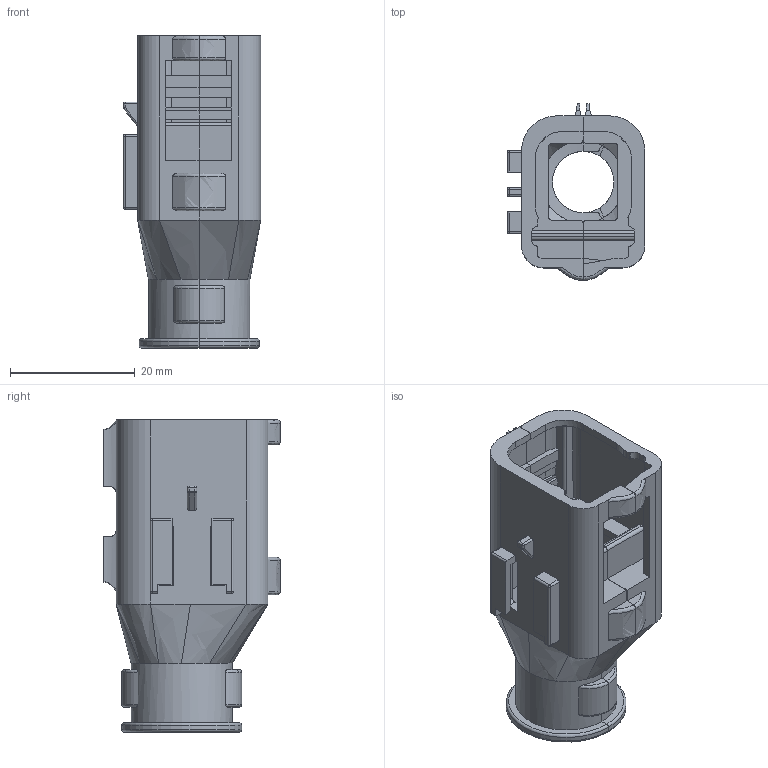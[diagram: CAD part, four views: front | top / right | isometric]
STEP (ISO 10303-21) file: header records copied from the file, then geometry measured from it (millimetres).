
FILE_DESCRIPTION((''),'2;1');
FILE_NAME('349510610','2014-04-07T',('me'),(''),'PRO/ENGINEER BY PARAMETRIC TECHNOLOGY CORPORATION, 2011490','PRO/ENGINEER BY PARAMETRIC TECHNOLOGY CORPORATION, 2011490','');
FILE_SCHEMA(('CONFIG_CONTROL_DESIGN'));
Length unit declared in the file: millimetre
Products named in the file (1): 349510610
Bounding box: 22.01 x 28.3 x 50 mm (x, y, z)
Volume: 5884.9 mm3; surface area: 8534.5 mm2
Topology: 1 solids, 1 shells, 416 faces, 1226 edges, 796 vertices
Faces by surface type: plane 196, cylinder 135, bspline 38, torus 17, sphere 14, cone 12, extrusion 4
Entity records: 16083 total; most frequent: CARTESIAN_POINT 5124, ORIENTED_EDGE 2424, DIRECTION 2162, EDGE_CURVE 1212, VERTEX_POINT 796, VECTOR 722, AXIS2_PLACEMENT_3D 720, LINE 718
